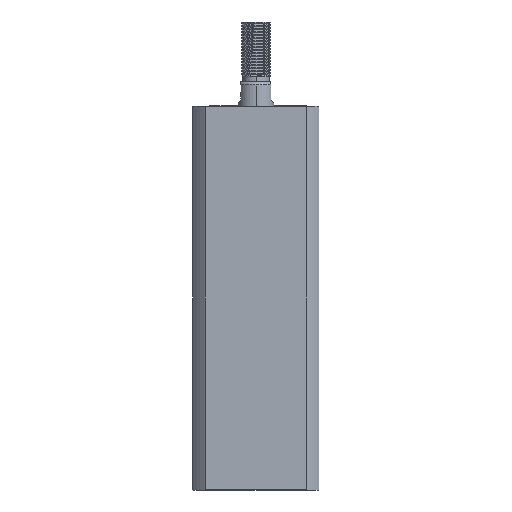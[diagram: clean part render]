
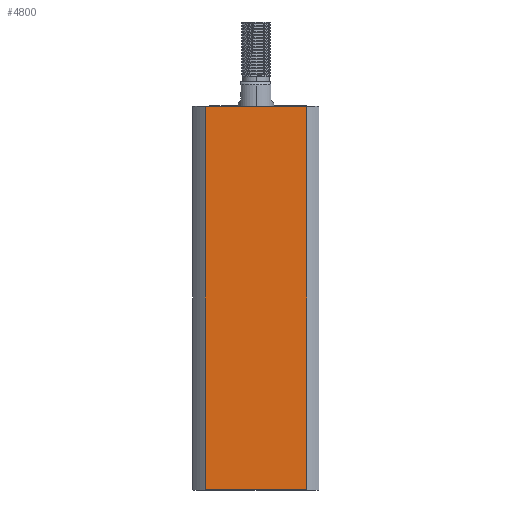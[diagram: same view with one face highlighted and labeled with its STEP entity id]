
A CAD part, left-side view. The second image highlights one B-rep face of the part: STEP entity #4800.
In plain terms, the highlighted planar face has unit normal (-1, 0, 0).
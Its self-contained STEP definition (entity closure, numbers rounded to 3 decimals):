
#402 = VERTEX_POINT ( 'NONE', #7026 ) ;
#496 = CARTESIAN_POINT ( 'NONE',  ( -21., 16.971, 127.7 ) ) ;
#710 = DIRECTION ( 'NONE',  ( 0., 0., -1. ) ) ;
#814 = ORIENTED_EDGE ( 'NONE', *, *, #4227, .F. ) ;
#1197 = CARTESIAN_POINT ( 'NONE',  ( -21., 16.971, -122. ) ) ;
#1537 = LINE ( 'NONE', #11134, #3873 ) ;
#2626 = ORIENTED_EDGE ( 'NONE', *, *, #9537, .F. ) ;
#3873 = VECTOR ( 'NONE', #8801, 1000. ) ;
#3952 = AXIS2_PLACEMENT_3D ( 'NONE', #4130, #13358, #6387 ) ;
#4130 = CARTESIAN_POINT ( 'NONE',  ( -21., 21., 128. ) ) ;
#4227 = EDGE_CURVE ( 'NONE', #402, #13737, #13824, .T. ) ;
#4773 = EDGE_CURVE ( 'NONE', #6628, #13737, #9147, .T. ) ;
#4800 = ADVANCED_FACE ( 'NONE', ( #14916 ), #12204, .F. ) ;
#5208 = DIRECTION ( 'NONE',  ( 0., 1., 0. ) ) ;
#6020 = VECTOR ( 'NONE', #5208, 1000. ) ;
#6387 = DIRECTION ( 'NONE',  ( 0., 1., 0. ) ) ;
#6628 = VERTEX_POINT ( 'NONE', #10693 ) ;
#6834 = EDGE_LOOP ( 'NONE', ( #814, #13770, #2626, #14064 ) ) ;
#7026 = CARTESIAN_POINT ( 'NONE',  ( -21., 16.971, 0.3 ) ) ;
#8775 = CARTESIAN_POINT ( 'NONE',  ( -21., -16.971, -122. ) ) ;
#8801 = DIRECTION ( 'NONE',  ( 0., -1., 0. ) ) ;
#9147 = LINE ( 'NONE', #13301, #6020 ) ;
#9537 = EDGE_CURVE ( 'NONE', #6628, #12261, #11733, .T. ) ;
#10119 = CARTESIAN_POINT ( 'NONE',  ( -21., -16.971, 0.3 ) ) ;
#10693 = CARTESIAN_POINT ( 'NONE',  ( -21., -16.971, 127.7 ) ) ;
#10794 = VECTOR ( 'NONE', #11577, 1000. ) ;
#11134 = CARTESIAN_POINT ( 'NONE',  ( -21., 21., 0.3 ) ) ;
#11577 = DIRECTION ( 'NONE',  ( 0., 0., 1. ) ) ;
#11733 = LINE ( 'NONE', #8775, #14454 ) ;
#12204 = PLANE ( 'NONE',  #3952 ) ;
#12261 = VERTEX_POINT ( 'NONE', #10119 ) ;
#13301 = CARTESIAN_POINT ( 'NONE',  ( -21., 21., 127.7 ) ) ;
#13358 = DIRECTION ( 'NONE',  ( 1., 0., 0. ) ) ;
#13737 = VERTEX_POINT ( 'NONE', #496 ) ;
#13770 = ORIENTED_EDGE ( 'NONE', *, *, #13957, .T. ) ;
#13824 = LINE ( 'NONE', #1197, #10794 ) ;
#13957 = EDGE_CURVE ( 'NONE', #402, #12261, #1537, .T. ) ;
#14064 = ORIENTED_EDGE ( 'NONE', *, *, #4773, .T. ) ;
#14454 = VECTOR ( 'NONE', #710, 1000. ) ;
#14916 = FACE_OUTER_BOUND ( 'NONE', #6834, .T. ) ;
